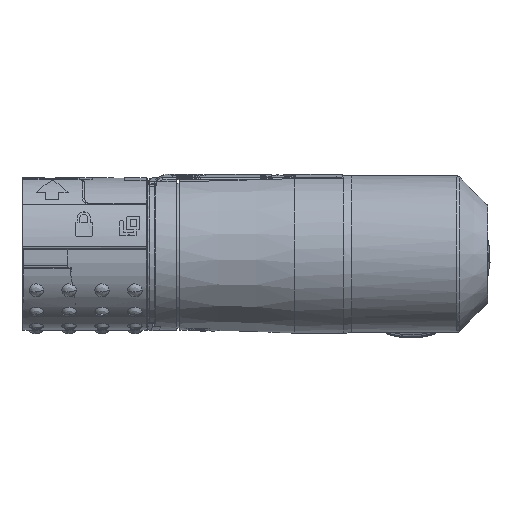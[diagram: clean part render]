
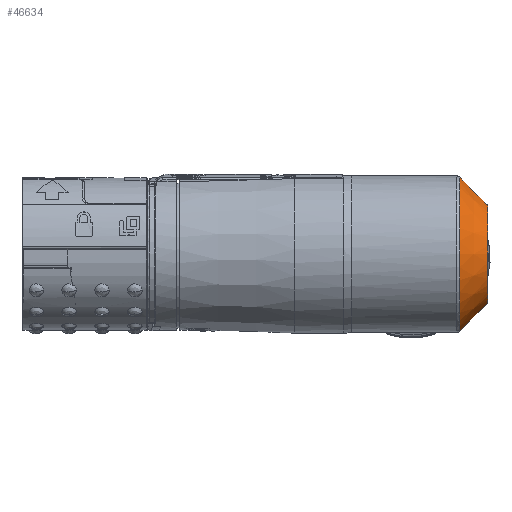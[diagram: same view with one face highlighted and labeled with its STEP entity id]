
A CAD part, top view. The second image highlights one B-rep face of the part: STEP entity #46634.
In plain terms, the highlighted conical face has half-angle 45 degrees and reference radius 6.75 mm.
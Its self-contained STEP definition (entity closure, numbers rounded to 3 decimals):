
#423 = DIRECTION ( 'NONE',  ( 0., 0., 1. ) ) ;
#807 = ORIENTED_EDGE ( 'NONE', *, *, #22131, .F. ) ;
#2445 = EDGE_LOOP ( 'NONE', ( #807, #19086, #48438, #44231 ) ) ;
#3466 = CIRCLE ( 'NONE', #11331, 6.75 ) ;
#11331 = AXIS2_PLACEMENT_3D ( 'NONE', #54287, #12172, #57979 ) ;
#12172 = DIRECTION ( 'NONE',  ( 1., 0., 0. ) ) ;
#13175 = CARTESIAN_POINT ( 'NONE',  ( 7.95, -8.196, 20.005 ) ) ;
#13630 = B_SPLINE_CURVE_WITH_KNOTS ( 'NONE', 1,
 ( #18196, #32030 ),
 .UNSPECIFIED., .F., .F.,
 ( 2, 2 ),
 ( 0.037, 1. ),
 .UNSPECIFIED. ) ;
#16095 = CARTESIAN_POINT ( 'NONE',  ( 10.519, -5.937, 21.228 ) ) ;
#18196 = CARTESIAN_POINT ( 'NONE',  ( 6.665, 9.326, 19.394 ) ) ;
#18359 = CARTESIAN_POINT ( 'NONE',  ( 6.665, -9.326, 19.394 ) ) ;
#19086 = ORIENTED_EDGE ( 'NONE', *, *, #60811, .T. ) ;
#19694 = VERTEX_POINT ( 'NONE', #40079 ) ;
#21611 = AXIS2_PLACEMENT_3D ( 'NONE', #54988, #31021, #26410 ) ;
#22131 = EDGE_CURVE ( 'NONE', #19694, #26575, #13630, .T. ) ;
#22339 = B_SPLINE_CURVE_WITH_KNOTS ( 'NONE', 3,
 ( #54653, #13175, #27622, #31308 ),
 .UNSPECIFIED., .F., .F.,
 ( 4, 4 ),
 ( 0.037, 1. ),
 .UNSPECIFIED. ) ;
#23480 = DIRECTION ( 'NONE',  ( -1., 0., 0. ) ) ;
#26410 = DIRECTION ( 'NONE',  ( 0., 0., -1. ) ) ;
#26575 = VERTEX_POINT ( 'NONE', #30700 ) ;
#27622 = CARTESIAN_POINT ( 'NONE',  ( 9.235, -7.067, 20.616 ) ) ;
#27841 = EDGE_CURVE ( 'NONE', #26575, #54020, #3466, .T. ) ;
#30700 = CARTESIAN_POINT ( 'NONE',  ( 10.519, 5.937, 21.228 ) ) ;
#31021 = DIRECTION ( 'NONE',  ( 1., 0., 0. ) ) ;
#31308 = CARTESIAN_POINT ( 'NONE',  ( 10.519, -5.937, 21.228 ) ) ;
#32030 = CARTESIAN_POINT ( 'NONE',  ( 10.519, 5.937, 21.228 ) ) ;
#32816 = VERTEX_POINT ( 'NONE', #18359 ) ;
#38235 = EDGE_CURVE ( 'NONE', #32816, #54020, #22339, .T. ) ;
#40079 = CARTESIAN_POINT ( 'NONE',  ( 6.665, 9.326, 19.394 ) ) ;
#44231 = ORIENTED_EDGE ( 'NONE', *, *, #27841, .F. ) ;
#46634 = ADVANCED_FACE ( 'NONE', ( #47148 ), #48909, .T. ) ;
#46844 = CARTESIAN_POINT ( 'NONE',  ( 10.519, 0., 24.439 ) ) ;
#47148 = FACE_OUTER_BOUND ( 'NONE', #2445, .T. ) ;
#48438 = ORIENTED_EDGE ( 'NONE', *, *, #38235, .T. ) ;
#48909 = CONICAL_SURFACE ( 'NONE', #49867, 6.75, 0.785 ) ;
#49867 = AXIS2_PLACEMENT_3D ( 'NONE', #46844, #23480, #423 ) ;
#54020 = VERTEX_POINT ( 'NONE', #16095 ) ;
#54287 = CARTESIAN_POINT ( 'NONE',  ( 10.519, 0., 24.439 ) ) ;
#54653 = CARTESIAN_POINT ( 'NONE',  ( 6.665, -9.326, 19.394 ) ) ;
#54988 = CARTESIAN_POINT ( 'NONE',  ( 6.665, 0., 24.439 ) ) ;
#57979 = DIRECTION ( 'NONE',  ( 0., 0., 1. ) ) ;
#59861 = CIRCLE ( 'NONE', #21611, 10.604 ) ;
#60811 = EDGE_CURVE ( 'NONE', #19694, #32816, #59861, .T. ) ;
